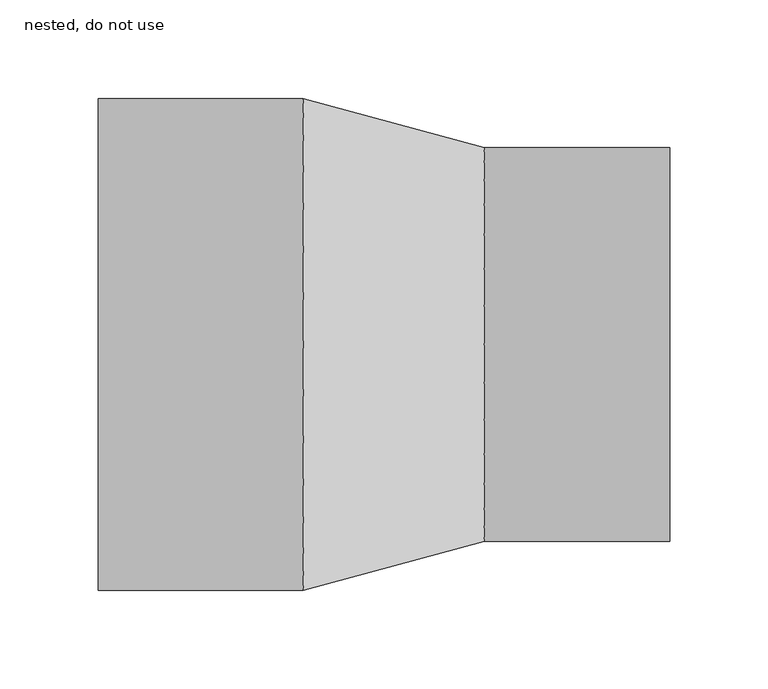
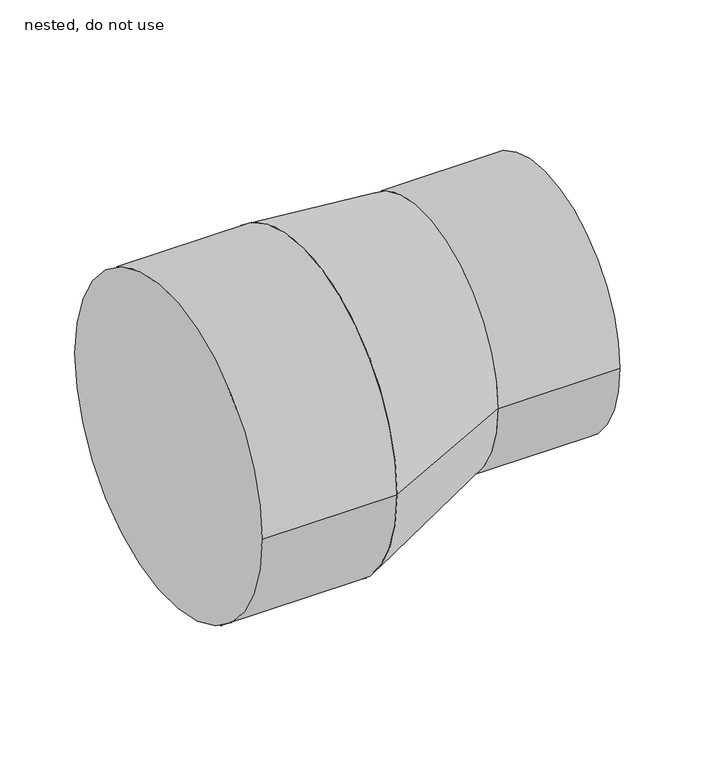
"""IFC4 building model written with IfcOpenShell, lengths in millimetres: pipe fitting geometry, ZZZ_do no use_PIF_HDPE reducer -SH_Akatherm : nested, do not use."""

from ifc_helpers import new_model, si_unit, point, frame, frame_2d, origin, origin_2d, place, context, project, spatial, circle_curve, trimmed, segment, composite_curve, outline, extrude, source, transform, mapped, element, save
from ifc_brep_helpers import plane_surface, spline_surface, advanced_brep


def nested_do_not_use_2af66b91(model_context):
    return source(origin(), model_context, "Body", "SolidModel", [
        advanced_brep(
        [(51.0, -100.0, 22.5), (51.0, 100.0, 22.5), (-41.0, -125.0, 0.0), (-41.0, 125.0, 0.0)],
        [
            (0, 1, circle_curve(frame((51.0, 0.0, 22.5), z_axis=(1.0, 0.0, 0.0), x_axis=(0.0, 1.0, 0.0)), 100.0)),
            (1, 0, circle_curve(frame((51.0, 0.0, 22.5), z_axis=(1.0, 0.0, 0.0), x_axis=(0.0, 1.0, 0.0)), 100.0)),
            (2, 3, circle_curve(frame((-41.0, 0.0, 0.0), z_axis=(-1.0, 0.0, 0.0), x_axis=(0.0, 1.0, 0.0)), 125.0)),
            (3, 2, circle_curve(frame((-41.0, 0.0, 0.0), z_axis=(-1.0, 0.0, 0.0), x_axis=(0.0, 1.0, 0.0)), 125.0)),
            (3, 1),
            (0, 2),
        ],
        [
            plane_surface(frame((51.0, 0.0, 22.5), z_axis=(1.0, 0.0, 0.0), x_axis=(0.0, 0.0, -1.0))),
            plane_surface(frame((-41.0, 0.0, 0.0), z_axis=(-1.0, 0.0, 0.0), x_axis=(0.0, 0.0, -1.0))),
            spline_surface(2, 1, [[(-41.0, -125.0, 0.0), (51.0, -100.0, 22.5)], [(-41.0, -125.0, -125.0), (51.0, -100.0, -77.5)], [(-41.0, 0.0, -125.0), (51.0, 0.0, -77.5)], [(-41.0, 125.0, -125.0), (51.0, 100.0, -77.5)], [(-41.0, 125.0, 0.0), (51.0, 100.0, 22.5)]], [3, 2, 3], [2, 2], [0.0, 1.0, 2.0], [0.0, 1.0], weights=[[1.0, 1.0], [0.7071067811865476, 0.7071067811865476], [1.0, 1.0], [0.7071067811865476, 0.7071067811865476], [1.0, 1.0]]),
            spline_surface(2, 1, [[(-41.0, 125.0, 0.0), (51.0, 100.0, 22.5)], [(-41.0, 125.0, 125.0), (51.0, 100.0, 122.5)], [(-41.0, 0.0, 125.0), (51.0, 0.0, 122.5)], [(-41.0, -125.0, 125.0), (51.0, -100.0, 122.5)], [(-41.0, -125.0, 0.0), (51.0, -100.0, 22.5)]], [3, 2, 3], [2, 2], [0.0, 1.0, 2.0], [0.0, 1.0], weights=[[1.0, 1.0], [0.7071067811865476, 0.7071067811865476], [1.0, 1.0], [0.7071067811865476, 0.7071067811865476], [1.0, 1.0]]),
        ],
        [
            (0, [[1, 2]]),
            (1, [[3, 4]]),
            (2, [[-4, 5, -1, 6]]),
            (3, [[-3, -6, -2, -5]]),
        ],
    ),
        extrude(outline(composite_curve([segment(trimmed(circle_curve(frame_2d((0.0, 22.5)), 100.0), [point((-100.0, 22.5))], [point((100.0, 22.5))], False, "CARTESIAN"), True, "CONTINUOUS"), segment(trimmed(circle_curve(frame_2d((0.0, 22.5)), 100.0), [point((100.0, 22.5))], [point((-100.0, 22.5))], False, "CARTESIAN"), True, "CONTINUOUS")], self_intersect=False)), frame((51.0, 0.0, 0.0), z_axis=(1.0, 0.0, 0.0), x_axis=(0.0, 1.0, 0.0)), (0.0, 0.0, 1.0), 94.0),
        extrude(outline(composite_curve([segment(trimmed(circle_curve(origin_2d(), 125.0), [point((-125.0, 0.0))], [point((125.0, 0.0))], False, "CARTESIAN"), True, "CONTINUOUS"), segment(trimmed(circle_curve(origin_2d(), 125.0), [point((125.0, 0.0))], [point((-125.0, 0.0))], False, "CARTESIAN"), True, "CONTINUOUS")], self_intersect=False)), frame((-145.0, 0.0, 0.0), z_axis=(1.0, 0.0, 0.0), x_axis=(0.0, 1.0, 0.0)), (0.0, 0.0, 1.0), 104.0),
    ])


if __name__ == "__main__":
    model = new_model("IFC4")
    model_context = context("Model", 3, world=origin())
    ifc_project = project(units=[si_unit("LENGTHUNIT", "METRE", prefix="MILLI")], contexts=[model_context])
    site = spatial("IfcSite", under=ifc_project)
    building = spatial("IfcBuilding", under=site)
    placement = place(None, origin())
    nested_do_not_use_shape = nested_do_not_use_2af66b91(model_context)
    element("IfcPipeFitting", 1, ObjectType="ZZZ_do no use_PIF_HDPE reducer -SH_Akatherm : nested, do not use", at=placement, inside=building, context=model_context, shape_type="MappedRepresentation", body=[
        mapped(nested_do_not_use_shape, transform((0.0, 0.0, 0.0), x_axis=(1.0, 0.0, 0.0), y_axis=(0.0, 1.0, 0.0), z_axis=(0.0, 0.0, 1.0))),
    ])
    save(model, "model.ifc")
